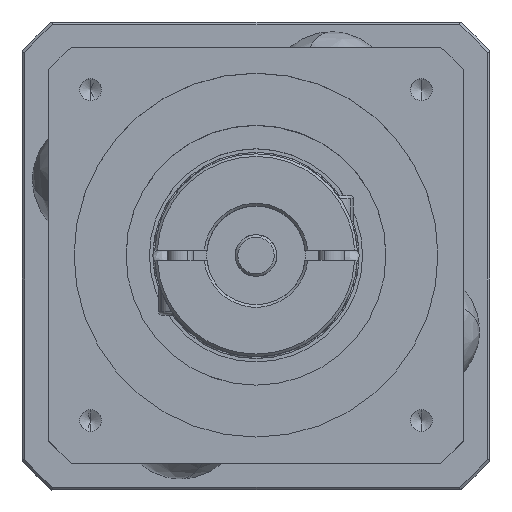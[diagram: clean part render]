
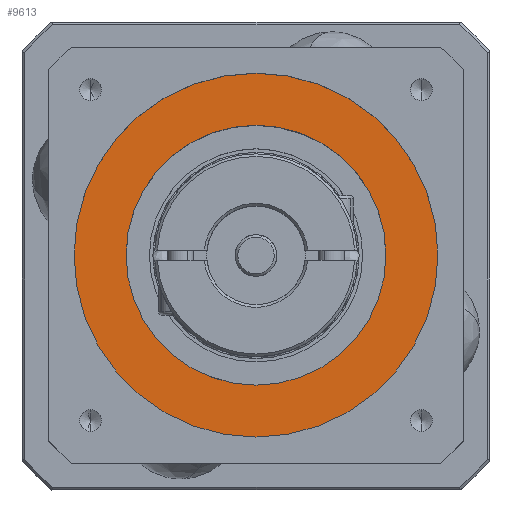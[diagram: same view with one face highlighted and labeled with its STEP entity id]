
A CAD part, top view. The second image highlights one B-rep face of the part: STEP entity #9613.
In plain terms, the highlighted planar face has unit normal (0, 0, 1).
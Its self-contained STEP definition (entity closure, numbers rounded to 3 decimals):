
#110 = DIRECTION ( 'NONE',  ( 1., 0., 0. ) ) ;
#409 = FACE_BOUND ( 'NONE', #10621, .T. ) ;
#1782 = DIRECTION ( 'NONE',  ( 0., 0., 1. ) ) ;
#1983 = CARTESIAN_POINT ( 'NONE',  ( 0., 0., 34.5 ) ) ;
#2599 = DIRECTION ( 'NONE',  ( 0., 0., 1. ) ) ;
#4242 = DIRECTION ( 'NONE',  ( 1., 0., 0. ) ) ;
#6158 = EDGE_CURVE ( 'NONE', #28015, #21175, #24723, .T. ) ;
#7032 = CARTESIAN_POINT ( 'NONE',  ( -35., 0., 34.5 ) ) ;
#7703 = VERTEX_POINT ( 'NONE', #9708 ) ;
#7840 = DIRECTION ( 'NONE',  ( 0., 0., 1. ) ) ;
#9107 = AXIS2_PLACEMENT_3D ( 'NONE', #27024, #13345, #110 ) ;
#9613 = ADVANCED_FACE ( 'NONE', ( #28945, #409 ), #15224, .T. ) ;
#9708 = CARTESIAN_POINT ( 'NONE',  ( 35., 0., 34.5 ) ) ;
#9795 = EDGE_LOOP ( 'NONE', ( #26766, #18155 ) ) ;
#10621 = EDGE_LOOP ( 'NONE', ( #28261, #18898 ) ) ;
#13345 = DIRECTION ( 'NONE',  ( 0., 0., 1. ) ) ;
#13363 = EDGE_CURVE ( 'NONE', #7703, #22574, #15489, .T. ) ;
#13372 = AXIS2_PLACEMENT_3D ( 'NONE', #15837, #2599, #18127 ) ;
#14114 = EDGE_CURVE ( 'NONE', #21175, #28015, #21525, .T. ) ;
#15022 = CARTESIAN_POINT ( 'NONE',  ( 0., 0., 34.5 ) ) ;
#15224 = PLANE ( 'NONE',  #22184 ) ;
#15489 = CIRCLE ( 'NONE', #9107, 35. ) ;
#15529 = AXIS2_PLACEMENT_3D ( 'NONE', #21240, #7840, #23542 ) ;
#15837 = CARTESIAN_POINT ( 'NONE',  ( 0., 0., 34.5 ) ) ;
#17279 = DIRECTION ( 'NONE',  ( 1., 0., 0. ) ) ;
#17478 = DIRECTION ( 'NONE',  ( 0., 0., 1. ) ) ;
#18127 = DIRECTION ( 'NONE',  ( 1., 0., 0. ) ) ;
#18155 = ORIENTED_EDGE ( 'NONE', *, *, #28039, .T. ) ;
#18521 = CIRCLE ( 'NONE', #15529, 35. ) ;
#18898 = ORIENTED_EDGE ( 'NONE', *, *, #6158, .F. ) ;
#19183 = CARTESIAN_POINT ( 'NONE',  ( 25., 0., 34.5 ) ) ;
#21175 = VERTEX_POINT ( 'NONE', #19183 ) ;
#21240 = CARTESIAN_POINT ( 'NONE',  ( 0., 0., 34.5 ) ) ;
#21525 = CIRCLE ( 'NONE', #27698, 25. ) ;
#22184 = AXIS2_PLACEMENT_3D ( 'NONE', #1983, #17478, #4242 ) ;
#22574 = VERTEX_POINT ( 'NONE', #7032 ) ;
#23357 = CARTESIAN_POINT ( 'NONE',  ( -25., 0., 34.5 ) ) ;
#23542 = DIRECTION ( 'NONE',  ( 1., 0., 0. ) ) ;
#24723 = CIRCLE ( 'NONE', #13372, 25. ) ;
#26766 = ORIENTED_EDGE ( 'NONE', *, *, #13363, .T. ) ;
#27024 = CARTESIAN_POINT ( 'NONE',  ( 0., 0., 34.5 ) ) ;
#27698 = AXIS2_PLACEMENT_3D ( 'NONE', #15022, #1782, #17279 ) ;
#28015 = VERTEX_POINT ( 'NONE', #23357 ) ;
#28039 = EDGE_CURVE ( 'NONE', #22574, #7703, #18521, .T. ) ;
#28261 = ORIENTED_EDGE ( 'NONE', *, *, #14114, .F. ) ;
#28945 = FACE_OUTER_BOUND ( 'NONE', #9795, .T. ) ;
